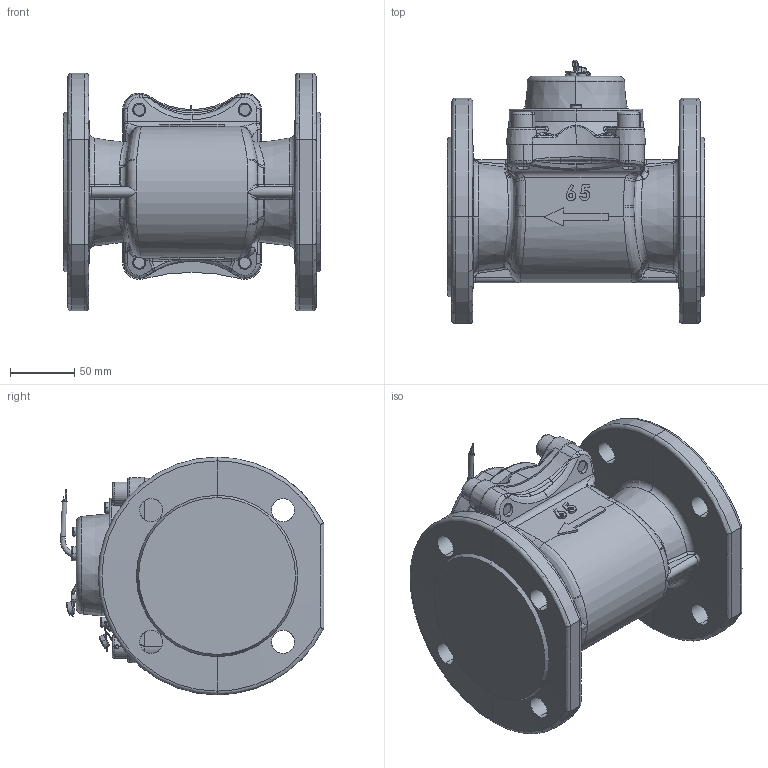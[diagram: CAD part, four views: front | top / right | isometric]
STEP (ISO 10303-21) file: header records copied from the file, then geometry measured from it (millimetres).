
FILE_DESCRIPTION (( 'STEP AP214' ), '1' );
FILE_NAME ('MWN130-65-NC.STEP', '2025-08-01T09:00:46', ( '' ), ( '' ), 'SwSTEP 2.0', 'SolidWorks 2019', '' );
FILE_SCHEMA (( 'AUTOMOTIVE_DESIGN' ));
Length unit declared in the file: millimetre
Products named in the file (1): MWN130-65-NC
Bounding box: 200 x 205.03 x 185 mm (x, y, z)
Volume: 2622262.2 mm3; surface area: 274168 mm2
Topology: 23 solids, 32 shells, 1478 faces, 3752 edges, 2328 vertices
Faces by surface type: plane 511, cylinder 363, bspline 296, cone 162, torus 136, sphere 10
Entity records: 77200 total; most frequent: CARTESIAN_POINT 27223, ORIENTED_EDGE 7394, DIRECTION 6447, EDGE_CURVE 3697, AXIS2_PLACEMENT_3D 2459, VERTEX_POINT 2328, EDGE_LOOP 1605, VECTOR 1529
